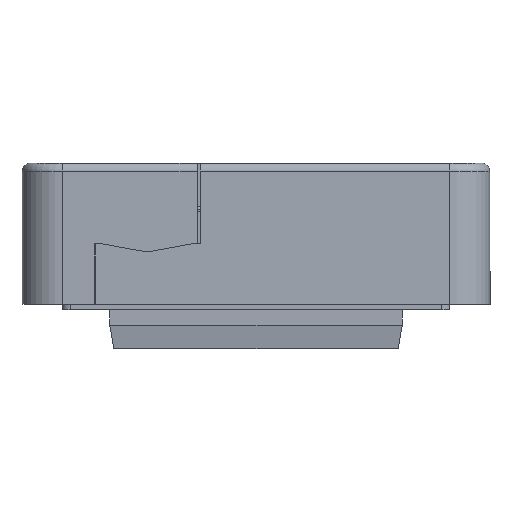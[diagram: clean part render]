
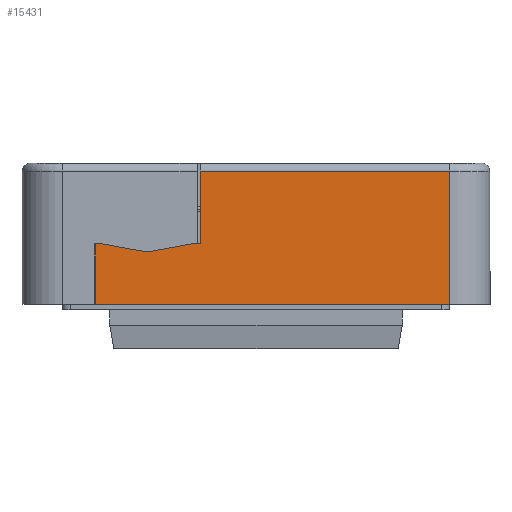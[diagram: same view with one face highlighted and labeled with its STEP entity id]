
A CAD part, left-side view. The second image highlights one B-rep face of the part: STEP entity #15431.
In plain terms, the highlighted planar face has unit normal (-1, 0, 0) as drawn and (1, 0, 0) by its records, which use the part's own axes.
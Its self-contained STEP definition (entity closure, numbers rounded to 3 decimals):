
#1743=FACE_OUTER_BOUND('',#2635,.T.);
#2635=EDGE_LOOP('',(#13096,#13097,#13098,#13099,#13100,#13101,#13102,#13103,
#13104));
#4081=LINE('',#25644,#5646);
#4090=LINE('',#25677,#5655);
#4113=LINE('',#25729,#5678);
#4117=LINE('',#25735,#5682);
#4119=LINE('',#25739,#5684);
#4120=LINE('',#25741,#5685);
#4121=LINE('',#25742,#5686);
#4122=LINE('',#25744,#5687);
#4123=LINE('',#25745,#5688);
#5646=VECTOR('',#19511,10.);
#5655=VECTOR('',#19540,10.);
#5678=VECTOR('',#19581,10.);
#5682=VECTOR('',#19587,10.);
#5684=VECTOR('',#19591,10.);
#5685=VECTOR('',#19592,10.);
#5686=VECTOR('',#19593,10.);
#5687=VECTOR('',#19594,10.);
#5688=VECTOR('',#19595,10.);
#7152=VERTEX_POINT('',#25641);
#7153=VERTEX_POINT('',#25643);
#7167=VERTEX_POINT('',#25676);
#7186=VERTEX_POINT('',#25727);
#7187=VERTEX_POINT('',#25728);
#7188=VERTEX_POINT('',#25734);
#7189=VERTEX_POINT('',#25738);
#7190=VERTEX_POINT('',#25740);
#7191=VERTEX_POINT('',#25743);
#9195=EDGE_CURVE('',#7153,#7152,#4081,.T.);
#9212=EDGE_CURVE('',#7153,#7167,#4090,.T.);
#9238=EDGE_CURVE('',#7186,#7187,#4113,.T.);
#9242=EDGE_CURVE('',#7188,#7186,#4117,.T.);
#9244=EDGE_CURVE('',#7152,#7189,#4119,.T.);
#9245=EDGE_CURVE('',#7189,#7190,#4120,.T.);
#9246=EDGE_CURVE('',#7190,#7188,#4121,.T.);
#9247=EDGE_CURVE('',#7187,#7191,#4122,.T.);
#9248=EDGE_CURVE('',#7167,#7191,#4123,.T.);
#13096=ORIENTED_EDGE('',*,*,#9244,.T.);
#13097=ORIENTED_EDGE('',*,*,#9245,.T.);
#13098=ORIENTED_EDGE('',*,*,#9246,.T.);
#13099=ORIENTED_EDGE('',*,*,#9242,.T.);
#13100=ORIENTED_EDGE('',*,*,#9238,.T.);
#13101=ORIENTED_EDGE('',*,*,#9247,.T.);
#13102=ORIENTED_EDGE('',*,*,#9248,.F.);
#13103=ORIENTED_EDGE('',*,*,#9212,.F.);
#13104=ORIENTED_EDGE('',*,*,#9195,.T.);
#14689=PLANE('',#16495);
#15431=ADVANCED_FACE('',(#1743),#14689,.T.);
#16495=AXIS2_PLACEMENT_3D('',#25737,#19589,#19590);
#19511=DIRECTION('',(0.,0.,1.));
#19540=DIRECTION('',(0.,-1.,0.));
#19581=DIRECTION('',(0.,0.,1.));
#19587=DIRECTION('',(0.,1.,0.));
#19589=DIRECTION('center_axis',(1.,0.,0.));
#19590=DIRECTION('ref_axis',(0.,0.,-1.));
#19591=DIRECTION('',(0.,1.,0.));
#19592=DIRECTION('',(0.,0.984,0.179));
#19593=DIRECTION('',(0.,0.984,-0.179));
#19594=DIRECTION('',(0.,-1.,0.));
#19595=DIRECTION('',(0.,0.,1.));
#25641=CARTESIAN_POINT('',(50.5,6.9,-8.));
#25643=CARTESIAN_POINT('',(50.5,6.9,-17.));
#25644=CARTESIAN_POINT('',(50.5,6.9,-6.655));
#25676=CARTESIAN_POINT('',(50.5,-24.,-17.));
#25677=CARTESIAN_POINT('',(50.5,-22.565,-17.));
#25727=CARTESIAN_POINT('',(50.5,19.9,-8.));
#25728=CARTESIAN_POINT('',(50.5,19.9,-0.5));
#25729=CARTESIAN_POINT('',(50.5,19.9,-2.554));
#25734=CARTESIAN_POINT('',(50.5,19.,-8.));
#25735=CARTESIAN_POINT('',(50.5,-4.5,-8.));
#25737=CARTESIAN_POINT('Origin',(50.5,-29.,0.));
#25738=CARTESIAN_POINT('',(50.5,8.,-8.));
#25739=CARTESIAN_POINT('',(50.5,-4.5,-8.));
#25740=CARTESIAN_POINT('',(50.5,13.5,-7.));
#25741=CARTESIAN_POINT('',(50.5,-6.454,-10.628));
#25742=CARTESIAN_POINT('',(50.5,-4.936,-3.648));
#25743=CARTESIAN_POINT('',(50.5,-24.,-0.5));
#25744=CARTESIAN_POINT('',(50.5,-23.919,-0.5));
#25745=CARTESIAN_POINT('',(50.5,-24.,0.));
